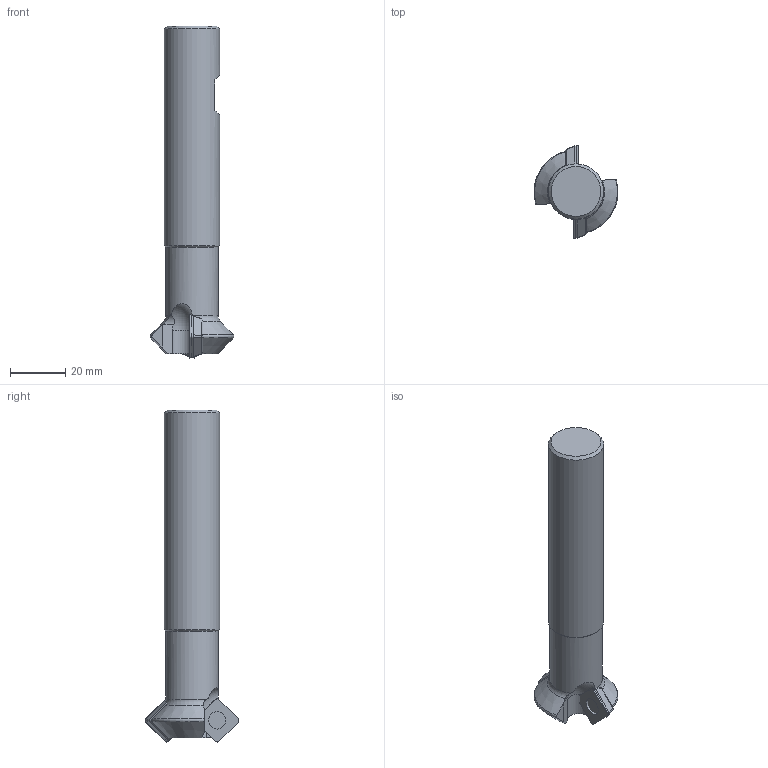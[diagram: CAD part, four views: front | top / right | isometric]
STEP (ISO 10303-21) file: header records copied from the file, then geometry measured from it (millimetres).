
FILE_DESCRIPTION(/* description */ (''),/* implementation_level */ '2;1');
FILE_NAME(/* name */ 'CE45-1119R-S20-HAAS.stp',/* time_stamp */ '2021-09-24T12:15:27+09:00',/* author */ (''),/* organization */ (''),/* preprocessor_version */ 'ST-DEVELOPER v11',/* originating_system */ 'SIEMENS UGS NX 6.0',/* authorisation */ '');
FILE_SCHEMA (('CONFIG_CONTROL_DESIGN'));
Length unit declared in the file: millimetre
Products named in the file (1): userF260wych
Bounding box: 30.35 x 33.87 x 120 mm (x, y, z)
Volume: 36745.3 mm3; surface area: 9356 mm2
Topology: 3 solids, 3 shells, 99 faces, 226 edges, 134 vertices
Faces by surface type: plane 47, bspline 24, cone 14, cylinder 8, torus 6
Full cylindrical faces by diameter (mm): 6.2 x2, 19 x1, 20 x1
Entity records: 3006 total; most frequent: CARTESIAN_POINT 934, ORIENTED_EDGE 436, DIRECTION 368, EDGE_CURVE 218, VERTEX_POINT 132, AXIS2_PLACEMENT_3D 130, EDGE_LOOP 110, LINE 108
